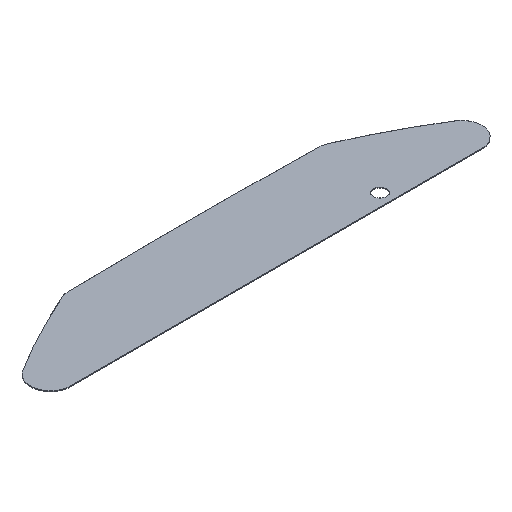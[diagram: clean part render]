
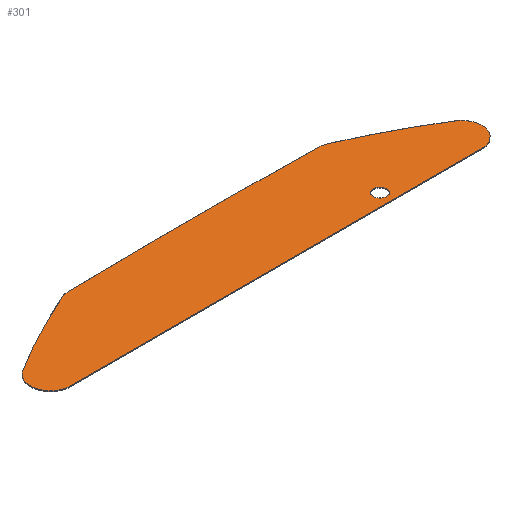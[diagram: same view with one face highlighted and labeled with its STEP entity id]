
A CAD part, isometric view. The second image highlights one B-rep face of the part: STEP entity #301.
In plain terms, the highlighted planar face has unit normal (0, 0, 1).
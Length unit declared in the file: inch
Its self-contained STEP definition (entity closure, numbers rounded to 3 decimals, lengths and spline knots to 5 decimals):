
#1 = EDGE_CURVE ( 'NONE', #451, #98, #260, .T. ) ;
#3 = ORIENTED_EDGE ( 'NONE', *, *, #194, .T. ) ;
#7 = DIRECTION ( 'NONE',  ( 1., 0., 0. ) ) ;
#8 = CARTESIAN_POINT ( 'NONE',  ( 1.30717, 0.15175, 0.01 ) ) ;
#13 = DIRECTION ( 'NONE',  ( 0., 0., 1. ) ) ;
#19 = CARTESIAN_POINT ( 'NONE',  ( -2.44653, 0.24, 0.01 ) ) ;
#22 = CARTESIAN_POINT ( 'NONE',  ( 2.44653, 0.24, 0.01 ) ) ;
#27 = CARTESIAN_POINT ( 'NONE',  ( -2.68653, 0.24, 0.01 ) ) ;
#31 = ORIENTED_EDGE ( 'NONE', *, *, #213, .T. ) ;
#45 = AXIS2_PLACEMENT_3D ( 'NONE', #206, #250, #248 ) ;
#46 = EDGE_CURVE ( 'NONE', #49, #404, #122, .T. ) ;
#49 = VERTEX_POINT ( 'NONE', #328 ) ;
#51 = CARTESIAN_POINT ( 'NONE',  ( 0., -81.99, 0.01 ) ) ;
#52 = CARTESIAN_POINT ( 'NONE',  ( 0., 0., 0.01 ) ) ;
#53 = EDGE_CURVE ( 'NONE', #61, #474, #78, .T. ) ;
#55 = CIRCLE ( 'NONE', #401, 0.24 ) ;
#60 = PLANE ( 'NONE',  #347 ) ;
#61 = VERTEX_POINT ( 'NONE', #8 ) ;
#63 = VERTEX_POINT ( 'NONE', #395 ) ;
#66 = EDGE_CURVE ( 'NONE', #474, #61, #219, .T. ) ;
#73 = AXIS2_PLACEMENT_3D ( 'NONE', #22, #186, #101 ) ;
#77 = EDGE_CURVE ( 'NONE', #190, #111, #197, .T. ) ;
#78 = CIRCLE ( 'NONE', #45, 0.07983 ) ;
#84 = ORIENTED_EDGE ( 'NONE', *, *, #77, .T. ) ;
#87 = ORIENTED_EDGE ( 'NONE', *, *, #66, .F. ) ;
#98 = VERTEX_POINT ( 'NONE', #295 ) ;
#101 = DIRECTION ( 'NONE',  ( 1., 0., 0. ) ) ;
#103 = AXIS2_PLACEMENT_3D ( 'NONE', #363, #432, #7 ) ;
#111 = VERTEX_POINT ( 'NONE', #176 ) ;
#118 = CIRCLE ( 'NONE', #362, 0.24 ) ;
#122 = CIRCLE ( 'NONE', #103, 7.99 ) ;
#130 = AXIS2_PLACEMENT_3D ( 'NONE', #217, #442, #262 ) ;
#134 = CARTESIAN_POINT ( 'NONE',  ( 1.48233, 0.74672, 0.01 ) ) ;
#142 = CIRCLE ( 'NONE', #73, 0.24 ) ;
#151 = DIRECTION ( 'NONE',  ( 1., 0., 0. ) ) ;
#155 = EDGE_CURVE ( 'NONE', #63, #388, #359, .T. ) ;
#158 = CARTESIAN_POINT ( 'NONE',  ( 2.57283, 0.44408, 0.01 ) ) ;
#168 = CARTESIAN_POINT ( 'NONE',  ( 1.387, 0.15175, 0.01 ) ) ;
#171 = DIRECTION ( 'NONE',  ( 1., 0., 0. ) ) ;
#176 = CARTESIAN_POINT ( 'NONE',  ( -1.48663, 0.98668, 0.01 ) ) ;
#186 = DIRECTION ( 'NONE',  ( 0., 0., 1. ) ) ;
#190 = VERTEX_POINT ( 'NONE', #256 ) ;
#194 = EDGE_CURVE ( 'NONE', #111, #49, #333, .T. ) ;
#195 = CARTESIAN_POINT ( 'NONE',  ( 1.46683, 0.15175, 0.01 ) ) ;
#197 = CIRCLE ( 'NONE', #394, 82.99 ) ;
#198 = DIRECTION ( 'NONE',  ( 0., 0., 1. ) ) ;
#201 = EDGE_CURVE ( 'NONE', #404, #325, #118, .T. ) ;
#206 = CARTESIAN_POINT ( 'NONE',  ( 1.387, 0.15175, 0.01 ) ) ;
#209 = ORIENTED_EDGE ( 'NONE', *, *, #46, .T. ) ;
#210 = DIRECTION ( 'NONE',  ( 1., 0., 0. ) ) ;
#213 = EDGE_CURVE ( 'NONE', #98, #190, #438, .T. ) ;
#216 = DIRECTION ( 'NONE',  ( 1., 0., 0. ) ) ;
#217 = CARTESIAN_POINT ( 'NONE',  ( -1.48233, 0.74672, 0.01 ) ) ;
#218 = FACE_OUTER_BOUND ( 'NONE', #233, .T. ) ;
#219 = CIRCLE ( 'NONE', #435, 0.07983 ) ;
#233 = EDGE_LOOP ( 'NONE', ( #461, #494, #269, #31, #84, #3, #209, #373, #282 ) ) ;
#248 = DIRECTION ( 'NONE',  ( 1., 0., 0. ) ) ;
#250 = DIRECTION ( 'NONE',  ( 0., 0., 1. ) ) ;
#256 = CARTESIAN_POINT ( 'NONE',  ( 1.48663, 0.98668, 0.01 ) ) ;
#260 = CIRCLE ( 'NONE', #368, 7.99 ) ;
#262 = DIRECTION ( 'NONE',  ( 1., 0., 0. ) ) ;
#269 = ORIENTED_EDGE ( 'NONE', *, *, #1, .T. ) ;
#270 = CARTESIAN_POINT ( 'NONE',  ( -2.57283, 0.44408, 0.01 ) ) ;
#282 = ORIENTED_EDGE ( 'NONE', *, *, #489, .T. ) ;
#295 = CARTESIAN_POINT ( 'NONE',  ( 1.57877, 0.96649, 0.01 ) ) ;
#301 = ADVANCED_FACE ( 'NONE', ( #218, #348 ), #60, .T. ) ;
#306 = CARTESIAN_POINT ( 'NONE',  ( 2.44653, 0., 0.01 ) ) ;
#315 = CARTESIAN_POINT ( 'NONE',  ( -2.44653, 0.24, 0.01 ) ) ;
#325 = VERTEX_POINT ( 'NONE', #27 ) ;
#328 = CARTESIAN_POINT ( 'NONE',  ( -1.57877, 0.96649, 0.01 ) ) ;
#332 = DIRECTION ( 'NONE',  ( 1., 0., 0. ) ) ;
#333 = CIRCLE ( 'NONE', #130, 0.24 ) ;
#336 = EDGE_LOOP ( 'NONE', ( #410, #87 ) ) ;
#347 = AXIS2_PLACEMENT_3D ( 'NONE', #480, #375, #450 ) ;
#348 = FACE_BOUND ( 'NONE', #336, .T. ) ;
#358 = EDGE_CURVE ( 'NONE', #388, #451, #142, .T. ) ;
#359 = LINE ( 'NONE', #52, #403 ) ;
#362 = AXIS2_PLACEMENT_3D ( 'NONE', #19, #402, #332 ) ;
#363 = CARTESIAN_POINT ( 'NONE',  ( 1.632, -6.35, 0.01 ) ) ;
#368 = AXIS2_PLACEMENT_3D ( 'NONE', #383, #198, #151 ) ;
#373 = ORIENTED_EDGE ( 'NONE', *, *, #201, .T. ) ;
#375 = DIRECTION ( 'NONE',  ( 0., 0., 1. ) ) ;
#383 = CARTESIAN_POINT ( 'NONE',  ( -1.632, -6.35, 0.01 ) ) ;
#388 = VERTEX_POINT ( 'NONE', #306 ) ;
#389 = DIRECTION ( 'NONE',  ( 1., 0., 0. ) ) ;
#394 = AXIS2_PLACEMENT_3D ( 'NONE', #51, #407, #171 ) ;
#395 = CARTESIAN_POINT ( 'NONE',  ( -2.44653, 0., 0.01 ) ) ;
#401 = AXIS2_PLACEMENT_3D ( 'NONE', #315, #490, #389 ) ;
#402 = DIRECTION ( 'NONE',  ( 0., 0., 1. ) ) ;
#403 = VECTOR ( 'NONE', #475, 39.37008 ) ;
#404 = VERTEX_POINT ( 'NONE', #270 ) ;
#407 = DIRECTION ( 'NONE',  ( 0., 0., 1. ) ) ;
#410 = ORIENTED_EDGE ( 'NONE', *, *, #53, .F. ) ;
#432 = DIRECTION ( 'NONE',  ( 0., 0., 1. ) ) ;
#435 = AXIS2_PLACEMENT_3D ( 'NONE', #168, #439, #210 ) ;
#438 = CIRCLE ( 'NONE', #447, 0.24 ) ;
#439 = DIRECTION ( 'NONE',  ( 0., 0., 1. ) ) ;
#442 = DIRECTION ( 'NONE',  ( 0., 0., 1. ) ) ;
#447 = AXIS2_PLACEMENT_3D ( 'NONE', #134, #13, #216 ) ;
#450 = DIRECTION ( 'NONE',  ( 1., 0., 0. ) ) ;
#451 = VERTEX_POINT ( 'NONE', #158 ) ;
#461 = ORIENTED_EDGE ( 'NONE', *, *, #155, .T. ) ;
#474 = VERTEX_POINT ( 'NONE', #195 ) ;
#475 = DIRECTION ( 'NONE',  ( 1., 0., 0. ) ) ;
#480 = CARTESIAN_POINT ( 'NONE',  ( 0., 0., 0.01 ) ) ;
#489 = EDGE_CURVE ( 'NONE', #325, #63, #55, .T. ) ;
#490 = DIRECTION ( 'NONE',  ( 0., 0., 1. ) ) ;
#494 = ORIENTED_EDGE ( 'NONE', *, *, #358, .T. ) ;
